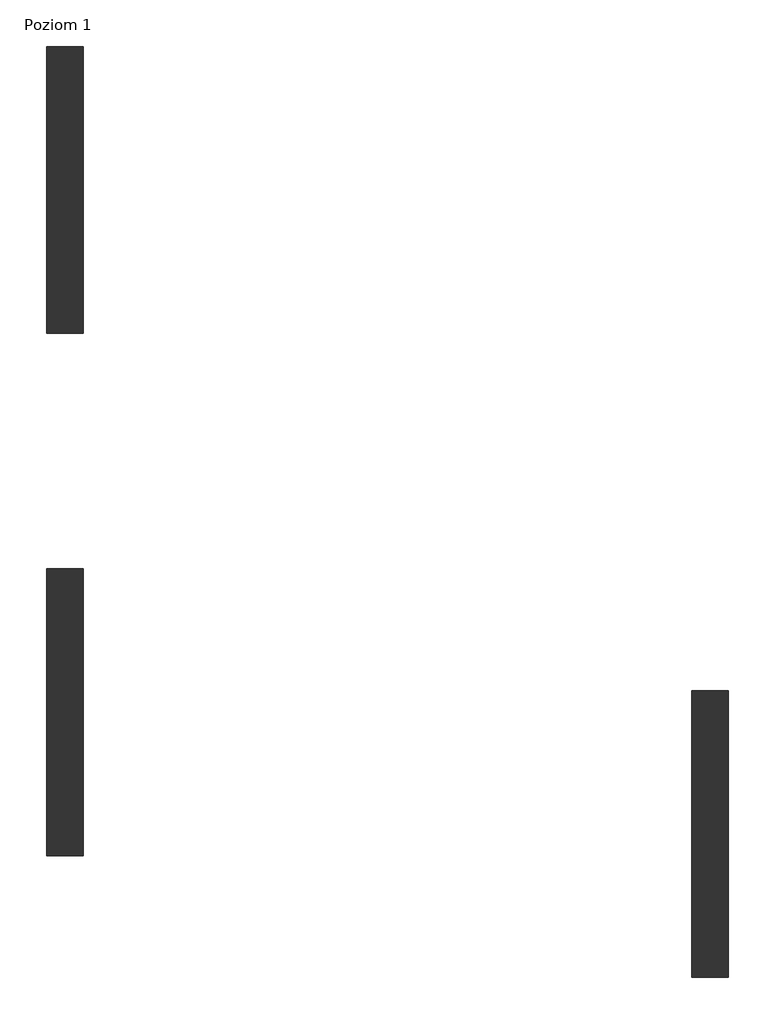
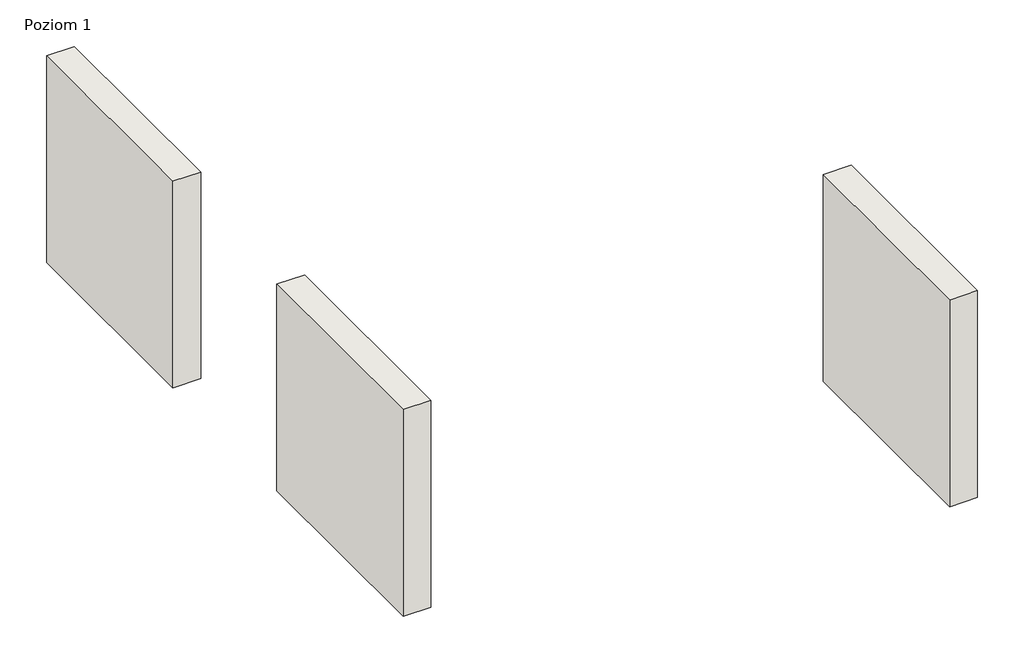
# One storey: 3 walls.
"""IFC4 building model written with IfcOpenShell, lengths in millimetres."""

from ifc_helpers import new_model, si_unit, origin, origin_with_axes, place, context, project, spatial, polyline, outline, extrude, element, save

model = new_model("IFC4")

# Units and contexts
model_context = context("Model", 3, world=origin())
ifc_project = project(units=[si_unit("LENGTHUNIT", "METRE", prefix="MILLI")], contexts=[model_context])

# Site, building, storey
site = spatial("IfcSite", under=ifc_project)
building = spatial("IfcBuilding", under=site)
storey = spatial("IfcBuildingStorey", under=building, Name="Poziom 1", Elevation=0.0)

# Walls
placement = place(None, origin())
element("IfcWall", 1, ObjectType="CeramicSystem - płyta EPS", at=placement, inside=storey, context=model_context, shape_type="SweptSolid", body=[
    extrude(outline(polyline([(39872.6925452, -43679.9459941), (39872.6925452, -39679.9459941), (40382.6925452, -39679.9459941), (40382.6925452, -43679.9459941), (39872.6925452, -43679.9459941)])), origin_with_axes(), (0.0, 0.0, 1.0), 4000.0),
])
element("IfcWall", 2, ObjectType="CeramicSystem - wełna mineralna", at=placement, inside=storey, context=model_context, shape_type="SweptSolid", body=[
    extrude(outline(polyline([(39872.6925452, -50967.7973206), (39872.6925452, -46967.7973206), (40382.6925452, -46967.7973206), (40382.6925452, -50967.7973206), (39872.6925452, -50967.7973206)])), origin_with_axes(), (0.0, 0.0, 1.0), 4000.0),
])
element("IfcWall", 3, ObjectType="CeramicSystem - wełna mineralna", at=placement, inside=storey, context=model_context, shape_type="SweptSolid", body=[
    extrude(outline(polyline([(48882.6925452, -52667.7973206), (48882.6925452, -48667.7973206), (49392.6925452, -48667.7973206), (49392.6925452, -52667.7973206), (48882.6925452, -52667.7973206)])), origin_with_axes(), (0.0, 0.0, 1.0), 4000.0),
])

save(model, "model.ifc")
